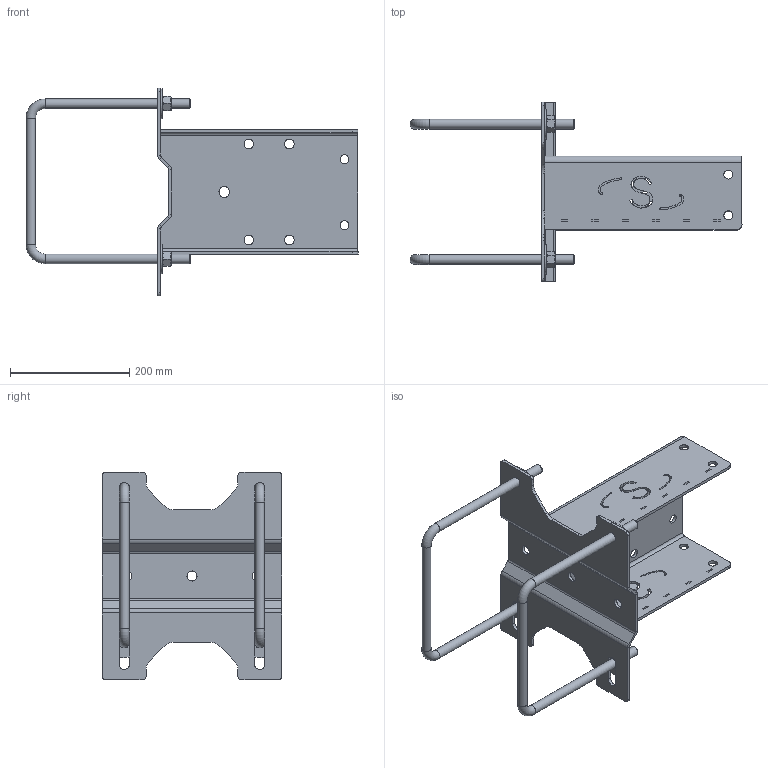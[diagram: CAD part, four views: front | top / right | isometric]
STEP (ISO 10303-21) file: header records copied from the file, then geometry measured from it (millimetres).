
FILE_DESCRIPTION(('STEP AP203'), '1');
FILE_NAME('Êðîíøòåéí âàêóóìíîãî âèìèêà÷à òà ÒÂÏ', '', ('UNSPECIFIED'), ('UNSPECIFIED'), 'C3D Converter', 'C3D Toolkit', '');
FILE_SCHEMA(('CONFIG_CONTROL_DESIGN'));
Length unit declared in the file: millimetre
Assembly tree (10 placements, depth 3):
  (unnamed)
    (unnamed)
      (unnamed)
      (unnamed)
    (unnamed)  x2
      (unnamed)
      (unnamed)
      (unnamed)
Bounding box: 556.26 x 300 x 347.78 mm (x, y, z)
Volume: 1492855.7 mm3; surface area: 588187.2 mm2
Topology: 12 solids, 12 shells, 340 faces, 932 edges, 616 vertices
Faces by surface type: plane 166, cylinder 76, extrusion 72, cone 20, torus 4, bspline 2
Full cylindrical faces by diameter (mm): 14.376 x4, 15 x6, 16 x10, 17 x9, 18 x1, 50 x4
Entity records: 18390 total; most frequent: CARTESIAN_POINT 8710, ORIENTED_EDGE 1484, DIRECTION 1228, EDGE_CURVE 742, VECTOR 504, VERTEX_POINT 502, LINE 432, EDGE_LOOP 386
